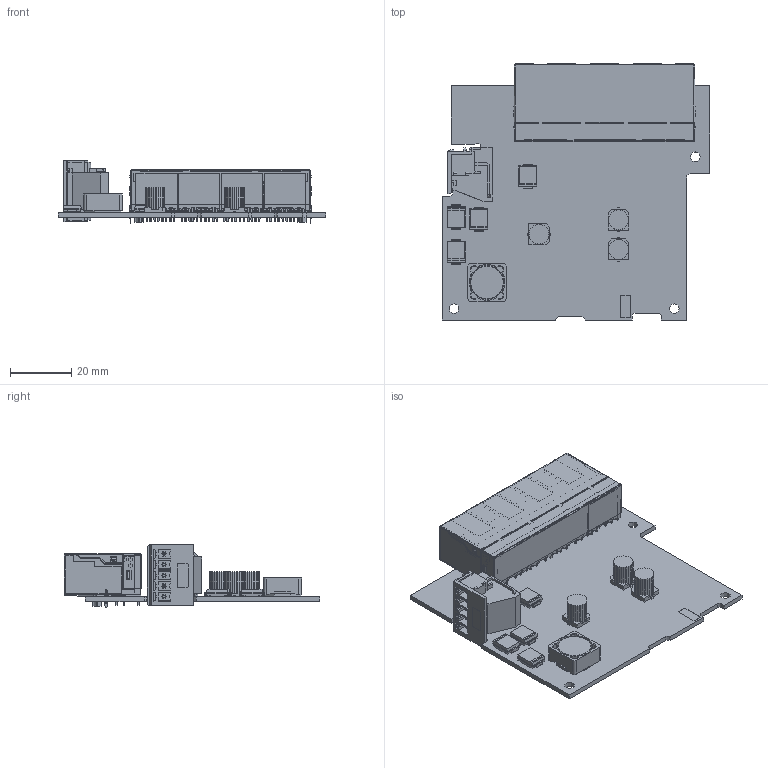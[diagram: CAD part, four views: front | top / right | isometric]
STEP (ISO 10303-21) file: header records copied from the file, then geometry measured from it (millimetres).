
FILE_DESCRIPTION(('STEP AP214'),'1');
FILE_NAME('SW-104.step','2022-08-25T09:02:48',(' '),(' '),'Spatial InterOp 3D','XD3DPlugin XRACreate',' ');
FILE_SCHEMA(('automotive_design'));
Length unit declared in the file: millimetre
Products named in the file (24): Submodel-\Input_S\6610UH5A5.xtd; 6610UH5A5; Submodel-6610UH5A5_part_simplified_SRR1260; DesignRootModel; Submodel-\Input_S\SMC.xtd; SMC; Submodel-55TZ1K5SMC36V_part_simplified_SMC; Submodel-\Input_S\SMD_ELEC_D.xtd; SMD_ELEC_D; Submodel-7547UF50V_part_simplified_SMD_ELEC_D; Submodel-\Input_S\82HEA3MM5TBX5_L_BLACK.xtd; 82HEA3MM5TBX5_L_BLACK; Submodel-82HEA3MM5TBX5_L_BLACK_part_simplified_TBX5_LEFT; Submodel-\Input_S\00MAGJACK1X4.xtd; 00MAGJACK1X4; Submodel-00MAGJACK1X4_part_simplified_MAGJACK1X4; uid__9223372036856357575; Submodel-noModelForPart_CHASSISPINS_1505797551; placementOutline; Submodel-CHASSISPINS_1505797551_part_CHASSISPINS; Submodel-AssyDefn_1; BrainboxesLogo2.step; SW-104; SW-104_Copper
Assembly tree (28 placements, depth 5):
  SW-104
    DesignRootModel
      Submodel-6610UH5A5_part_simplified_SRR1260
        Submodel-\Input_S\6610UH5A5.xtd
          6610UH5A5
      Submodel-55TZ1K5SMC36V_part_simplified_SMC  x4
        Submodel-\Input_S\SMC.xtd
          SMC
      Submodel-7547UF50V_part_simplified_SMD_ELEC_D  x3
        Submodel-\Input_S\SMD_ELEC_D.xtd
          SMD_ELEC_D
      Submodel-82HEA3MM5TBX5_L_BLACK_part_simplified_TBX5_LEFT
        Submodel-\Input_S\82HEA3MM5TBX5_L_BLACK.xtd
          82HEA3MM5TBX5_L_BLACK
      Submodel-00MAGJACK1X4_part_simplified_MAGJACK1X4
        Submodel-\Input_S\00MAGJACK1X4.xtd
          00MAGJACK1X4
      uid__9223372036856357575
      Submodel-CHASSISPINS_1505797551_part_CHASSISPINS
        Submodel-noModelForPart_CHASSISPINS_1505797551
          placementOutline
      Submodel-AssyDefn_1
        BrainboxesLogo2.step
    SW-104_Copper
Bounding box: 87.7 x 83.76 x 20.4 mm (x, y, z)
Volume: 28349.2 mm3; surface area: 43385.5 mm2
Topology: 52 solids, 68 shells, 5886 faces, 16770 edges, 10962 vertices
Faces by surface type: plane 4886, cylinder 644, bspline 296, torus 36, sphere 20, cone 4
Entity records: 242492 total; most frequent: CARTESIAN_POINT 38773, ORIENTED_EDGE 33944, DIRECTION 30693, EDGE_CURVE 16972, LINE 14371, VECTOR 14371, VERTEX_POINT 11147, AXIS2_PLACEMENT_3D 8161
